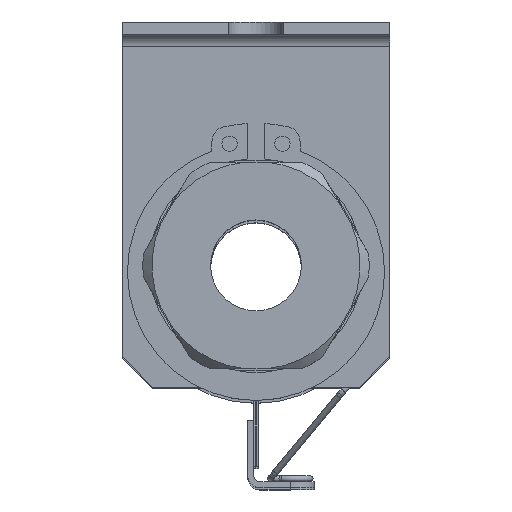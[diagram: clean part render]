
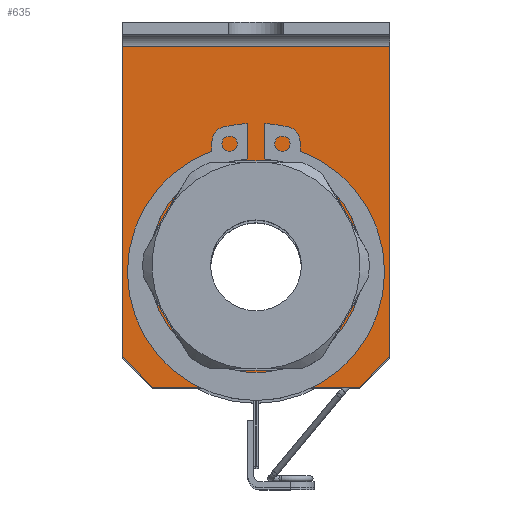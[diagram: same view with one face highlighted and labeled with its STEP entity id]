
A CAD part, top view. The second image highlights one B-rep face of the part: STEP entity #635.
In plain terms, the highlighted planar face has unit normal (0, 0, 1) as drawn and (1, 0, 0) by its records, which use the part's own axes.
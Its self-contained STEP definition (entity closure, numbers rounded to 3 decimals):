
#635 = ADVANCED_FACE( '', ( #1204, #1205 ), #1206, .F. );
#1204 = FACE_OUTER_BOUND( '', #1769, .T. );
#1205 = FACE_BOUND( '', #1770, .T. );
#1206 = PLANE( '', #1771 );
#1769 = EDGE_LOOP( '', ( #2810, #2811, #2812, #2813, #2814, #2815 ) );
#1770 = EDGE_LOOP( '', ( #2816, #2817, #2818, #2819, #2820, #2821 ) );
#1771 = AXIS2_PLACEMENT_3D( '', #2822, #2823, #2824 );
#2810 = ORIENTED_EDGE( '', *, *, #3564, .F. );
#2811 = ORIENTED_EDGE( '', *, *, #3616, .T. );
#2812 = ORIENTED_EDGE( '', *, *, #3546, .T. );
#2813 = ORIENTED_EDGE( '', *, *, #3617, .T. );
#2814 = ORIENTED_EDGE( '', *, *, #3533, .T. );
#2815 = ORIENTED_EDGE( '', *, *, #3618, .F. );
#2816 = ORIENTED_EDGE( '', *, *, #3619, .F. );
#2817 = ORIENTED_EDGE( '', *, *, #3620, .F. );
#2818 = ORIENTED_EDGE( '', *, *, #3280, .F. );
#2819 = ORIENTED_EDGE( '', *, *, #3486, .F. );
#2820 = ORIENTED_EDGE( '', *, *, #3614, .F. );
#2821 = ORIENTED_EDGE( '', *, *, #3580, .F. );
#2822 = CARTESIAN_POINT( '', ( 2., 22., 42.86 ) );
#2823 = DIRECTION( '', ( -1., 0., 0. ) );
#2824 = DIRECTION( '', ( 0., 0., 1. ) );
#3280 = EDGE_CURVE( '', #3809, #3810, #3811, .T. );
#3486 = EDGE_CURVE( '', #4145, #3809, #4146, .T. );
#3533 = EDGE_CURVE( '', #4208, #4209, #4210, .F. );
#3546 = EDGE_CURVE( '', #4229, #4230, #4231, .F. );
#3564 = EDGE_CURVE( '', #4252, #4254, #4255, .F. );
#3580 = EDGE_CURVE( '', #4273, #4274, #4275, .T. );
#3614 = EDGE_CURVE( '', #4274, #4145, #4317, .T. );
#3616 = EDGE_CURVE( '', #4252, #4229, #4319, .T. );
#3617 = EDGE_CURVE( '', #4230, #4208, #4320, .T. );
#3618 = EDGE_CURVE( '', #4254, #4209, #4321, .F. );
#3619 = EDGE_CURVE( '', #4322, #4273, #4323, .T. );
#3620 = EDGE_CURVE( '', #3810, #4322, #4324, .T. );
#3809 = VERTEX_POINT( '', #4594 );
#3810 = VERTEX_POINT( '', #4595 );
#3811 = LINE( '', #4596, #4597 );
#4145 = VERTEX_POINT( '', #5040 );
#4146 = LINE( '', #5041, #5042 );
#4208 = VERTEX_POINT( '', #5120 );
#4209 = VERTEX_POINT( '', #5121 );
#4210 = LINE( '', #5122, #5123 );
#4229 = VERTEX_POINT( '', #5150 );
#4230 = VERTEX_POINT( '', #5151 );
#4231 = LINE( '', #5152, #5153 );
#4252 = VERTEX_POINT( '', #5177 );
#4254 = VERTEX_POINT( '', #5180 );
#4255 = LINE( '', #5181, #5182 );
#4273 = VERTEX_POINT( '', #5203 );
#4274 = VERTEX_POINT( '', #5204 );
#4275 = LINE( '', #5205, #5206 );
#4317 = LINE( '', #5259, #5260 );
#4319 = LINE( '', #5262, #5263 );
#4320 = LINE( '', #5264, #5265 );
#4321 = LINE( '', #5266, #5267 );
#4322 = VERTEX_POINT( '', #5268 );
#4323 = LINE( '', #5269, #5270 );
#4324 = LINE( '', #5271, #5272 );
#4594 = CARTESIAN_POINT( '', ( 2., -9.93, 5.66 ) );
#4595 = CARTESIAN_POINT( '', ( 2., 9.93, 5.66 ) );
#4596 = CARTESIAN_POINT( '', ( 2., 22., 5.66 ) );
#4597 = VECTOR( '', #5428, 1000. );
#5040 = CARTESIAN_POINT( '', ( 2., -19.861, 22.86 ) );
#5041 = CARTESIAN_POINT( '', ( 2., -18.056, 19.734 ) );
#5042 = VECTOR( '', #5727, 1000. );
#5120 = CARTESIAN_POINT( '', ( 2., -22., 37.86 ) );
#5121 = CARTESIAN_POINT( '', ( 2., -22., -13.14 ) );
#5122 = CARTESIAN_POINT( '', ( 2., -22., 42.86 ) );
#5123 = VECTOR( '', #5780, 1000. );
#5150 = CARTESIAN_POINT( '', ( 2., 17., 42.86 ) );
#5151 = CARTESIAN_POINT( '', ( 2., -17., 42.86 ) );
#5152 = CARTESIAN_POINT( '', ( 2., 22., 42.86 ) );
#5153 = VECTOR( '', #5795, 1000. );
#5177 = CARTESIAN_POINT( '', ( 2., 22., 37.86 ) );
#5180 = CARTESIAN_POINT( '', ( 2., 22., -13.14 ) );
#5181 = CARTESIAN_POINT( '', ( 2., 22., 42.86 ) );
#5182 = VECTOR( '', #5818, 1000. );
#5203 = CARTESIAN_POINT( '', ( 2., 9.93, 40.06 ) );
#5204 = CARTESIAN_POINT( '', ( 2., -9.93, 40.06 ) );
#5205 = CARTESIAN_POINT( '', ( 2., 22., 40.06 ) );
#5206 = VECTOR( '', #5837, 1000. );
#5259 = CARTESIAN_POINT( '', ( 2., -0.735, 55.986 ) );
#5260 = VECTOR( '', #5867, 1000. );
#5262 = CARTESIAN_POINT( '', ( 2., 17., 42.86 ) );
#5263 = VECTOR( '', #5868, 1000. );
#5264 = CARTESIAN_POINT( '', ( 2., -22., 37.86 ) );
#5265 = VECTOR( '', #5869, 1000. );
#5266 = CARTESIAN_POINT( '', ( 2., 22., -13.14 ) );
#5267 = VECTOR( '', #5870, 1000. );
#5268 = CARTESIAN_POINT( '', ( 2., 19.861, 22.86 ) );
#5269 = CARTESIAN_POINT( '', ( 2., 11.735, 36.934 ) );
#5270 = VECTOR( '', #5871, 1000. );
#5271 = CARTESIAN_POINT( '', ( 2., 29.056, 38.786 ) );
#5272 = VECTOR( '', #5872, 1000. );
#5428 = DIRECTION( '', ( 0., 1., 0. ) );
#5727 = DIRECTION( '', ( 0., 0.5, -0.866 ) );
#5780 = DIRECTION( '', ( 0., 0., 1. ) );
#5795 = DIRECTION( '', ( 0., 1., 0. ) );
#5818 = DIRECTION( '', ( 0., 0., 1. ) );
#5837 = DIRECTION( '', ( 0., -1., 0. ) );
#5867 = DIRECTION( '', ( 0., -0.5, -0.866 ) );
#5868 = DIRECTION( '', ( 0., -0.707, 0.707 ) );
#5869 = DIRECTION( '', ( 0., -0.707, -0.707 ) );
#5870 = DIRECTION( '', ( 0., 1., 0. ) );
#5871 = DIRECTION( '', ( 0., -0.5, 0.866 ) );
#5872 = DIRECTION( '', ( 0., 0.5, 0.866 ) );
